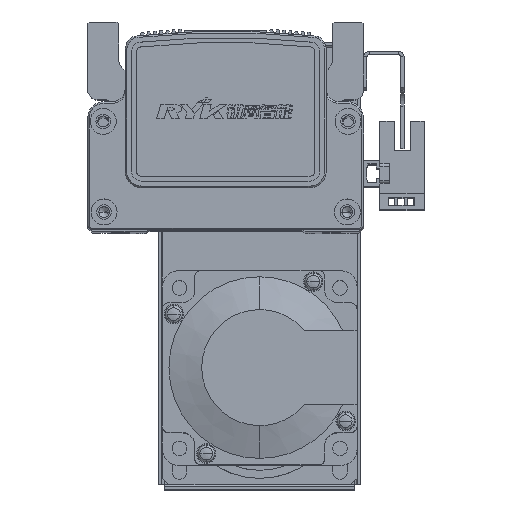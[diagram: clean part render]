
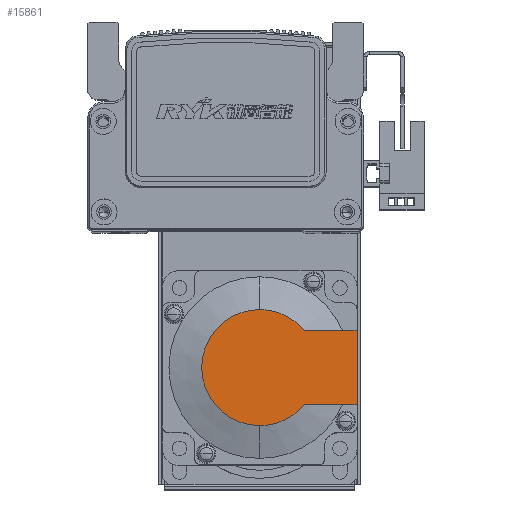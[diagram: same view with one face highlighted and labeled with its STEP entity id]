
A CAD part, top view. The second image highlights one B-rep face of the part: STEP entity #15861.
In plain terms, the highlighted planar face has unit normal (0, 0, 1) as drawn and (-1, 0, 0) by its records, which use the part's own axes.
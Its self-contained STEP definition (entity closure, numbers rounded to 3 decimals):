
#4294 = DIRECTION ( 'NONE',  ( 0., 0., -1. ) ) ;
#4296 = CARTESIAN_POINT ( 'NONE',  ( -99., 0., 0. ) ) ;
#4302 = DIRECTION ( 'NONE',  ( -1., 0., 0. ) ) ;
#4493 = DIRECTION ( 'NONE',  ( 0., -1., 0. ) ) ;
#4499 = CARTESIAN_POINT ( 'NONE',  ( -99., 0., 11.45 ) ) ;
#4516 = DIRECTION ( 'NONE',  ( 0., -1., 0. ) ) ;
#4568 = CARTESIAN_POINT ( 'NONE',  ( -99., -8.941, -11.45 ) ) ;
#4719 = CARTESIAN_POINT ( 'NONE',  ( -99., 30., 25. ) ) ;
#4724 = DIRECTION ( 'NONE',  ( 0., 0., 1. ) ) ;
#6683 = VECTOR ( 'NONE', #4724, 1000. ) ;
#6717 = LINE ( 'NONE', #4719, #6683 ) ;
#10544 = CARTESIAN_POINT ( 'NONE',  ( -99., 13.735, 11.45 ) ) ;
#10619 = CARTESIAN_POINT ( 'NONE',  ( -99., 0., -17.881 ) ) ;
#10661 = CARTESIAN_POINT ( 'NONE',  ( -99., 0., 17.881 ) ) ;
#11008 = CARTESIAN_POINT ( 'NONE',  ( -99., 13.735, -11.45 ) ) ;
#11067 = CARTESIAN_POINT ( 'NONE',  ( -99., 30., 11.45 ) ) ;
#11150 = CARTESIAN_POINT ( 'NONE',  ( -99., 30., -11.45 ) ) ;
#13559 = AXIS2_PLACEMENT_3D ( 'NONE', #30492, #30482, #30499 ) ;
#14477 = AXIS2_PLACEMENT_3D ( 'NONE', #53116, #53111, #53090 ) ;
#14581 = AXIS2_PLACEMENT_3D ( 'NONE', #53835, #53819, #53779 ) ;
#15861 = ADVANCED_FACE ( 'NONE', ( #55313 ), #30500, .T. ) ;
#24599 = LINE ( 'NONE', #4568, #24630 ) ;
#24607 = CIRCLE ( 'NONE', #35681, 17.881 ) ;
#24630 = VECTOR ( 'NONE', #4493, 1000. ) ;
#24777 = LINE ( 'NONE', #4499, #24795 ) ;
#24795 = VECTOR ( 'NONE', #4516, 1000. ) ;
#27151 = EDGE_CURVE ( 'NONE', #34472, #34481, #59033, .T. ) ;
#27238 = EDGE_CURVE ( 'NONE', #34481, #34421, #59245, .T. ) ;
#30482 = DIRECTION ( 'NONE',  ( -1., 0., 0. ) ) ;
#30492 = CARTESIAN_POINT ( 'NONE',  ( -99., -8.941, 0. ) ) ;
#30499 = DIRECTION ( 'NONE',  ( 0., 0., 1. ) ) ;
#30500 = PLANE ( 'NONE',  #13559 ) ;
#34421 = VERTEX_POINT ( 'NONE', #10544 ) ;
#34472 = VERTEX_POINT ( 'NONE', #10619 ) ;
#34481 = VERTEX_POINT ( 'NONE', #10661 ) ;
#34678 = VERTEX_POINT ( 'NONE', #11067 ) ;
#34695 = VERTEX_POINT ( 'NONE', #11008 ) ;
#34791 = VERTEX_POINT ( 'NONE', #11150 ) ;
#35681 = AXIS2_PLACEMENT_3D ( 'NONE', #4296, #4302, #4294 ) ;
#50556 = EDGE_CURVE ( 'NONE', #34695, #34472, #24607, .T. ) ;
#50598 = EDGE_CURVE ( 'NONE', #34791, #34695, #24599, .T. ) ;
#50602 = EDGE_CURVE ( 'NONE', #34678, #34421, #24777, .T. ) ;
#50628 = EDGE_CURVE ( 'NONE', #34791, #34678, #6717, .T. ) ;
#53090 = DIRECTION ( 'NONE',  ( 0., 0., -1. ) ) ;
#53111 = DIRECTION ( 'NONE',  ( -1., 0., 0. ) ) ;
#53116 = CARTESIAN_POINT ( 'NONE',  ( -99., 0., 0. ) ) ;
#53779 = DIRECTION ( 'NONE',  ( 0., 0., -1. ) ) ;
#53819 = DIRECTION ( 'NONE',  ( -1., 0., 0. ) ) ;
#53835 = CARTESIAN_POINT ( 'NONE',  ( -99., 0., 0. ) ) ;
#55313 = FACE_OUTER_BOUND ( 'NONE', #60174, .T. ) ;
#56636 = ORIENTED_EDGE ( 'NONE', *, *, #50556, .T. ) ;
#56698 = ORIENTED_EDGE ( 'NONE', *, *, #27238, .T. ) ;
#56714 = ORIENTED_EDGE ( 'NONE', *, *, #50598, .T. ) ;
#56732 = ORIENTED_EDGE ( 'NONE', *, *, #50628, .F. ) ;
#56776 = ORIENTED_EDGE ( 'NONE', *, *, #50602, .F. ) ;
#56804 = ORIENTED_EDGE ( 'NONE', *, *, #27151, .T. ) ;
#59033 = CIRCLE ( 'NONE', #14477, 17.881 ) ;
#59245 = CIRCLE ( 'NONE', #14581, 17.881 ) ;
#60174 = EDGE_LOOP ( 'NONE', ( #56714, #56636, #56804, #56698, #56776, #56732 ) ) ;
